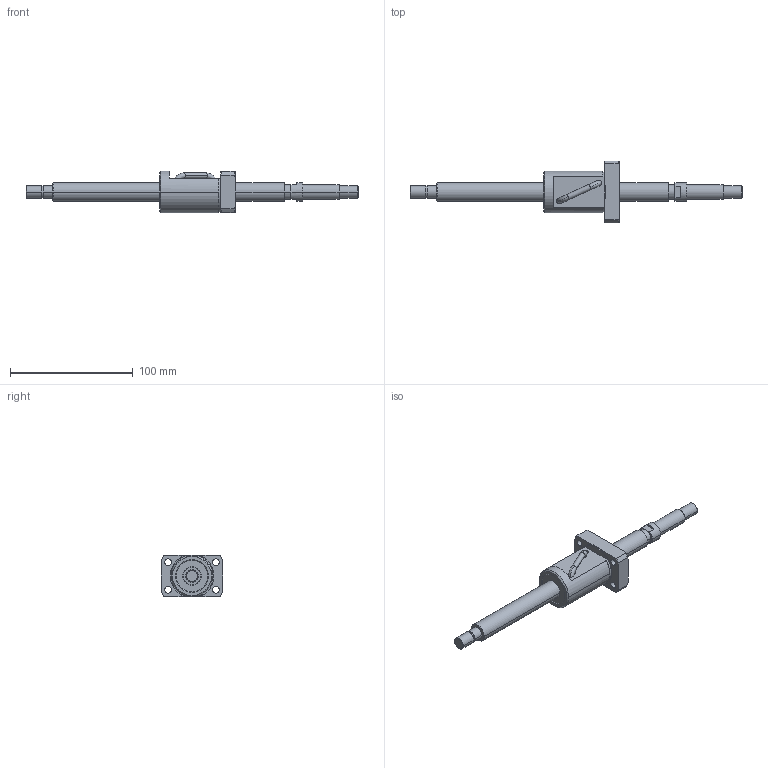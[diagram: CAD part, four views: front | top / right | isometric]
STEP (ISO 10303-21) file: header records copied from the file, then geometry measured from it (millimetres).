
FILE_DESCRIPTION (( 'STEP AP214' ), '1' );
FILE_NAME ('BS1520A-3D.STEP', '2014-03-05T14:49:32', ( '' ), ( '' ), 'SwSTEP 2.0', 'SolidWorks 2012', '' );
FILE_SCHEMA (( 'AUTOMOTIVE_DESIGN' ));
Length unit declared in the file: millimetre
Products named in the file (3): BS1520Aナット; BS1520AŽ²; BS1520A-3D
Assembly tree (2 placements, depth 2):
  BS1520A-3D
    BS1520AŽ²
    BS1520Aナット
Bounding box: 271 x 50 x 34 mm (x, y, z)
Volume: 87402.8 mm3; surface area: 28246.9 mm2
Topology: 2 solids, 2 shells, 154 faces, 396 edges, 257 vertices
Faces by surface type: cylinder 72, plane 42, cone 34, torus 4, bspline 2
Entity records: 6047 total; most frequent: CARTESIAN_POINT 2036, DIRECTION 826, ORIENTED_EDGE 788, EDGE_CURVE 394, AXIS2_PLACEMENT_3D 343, VERTEX_POINT 257, EDGE_LOOP 187, CIRCLE 186
